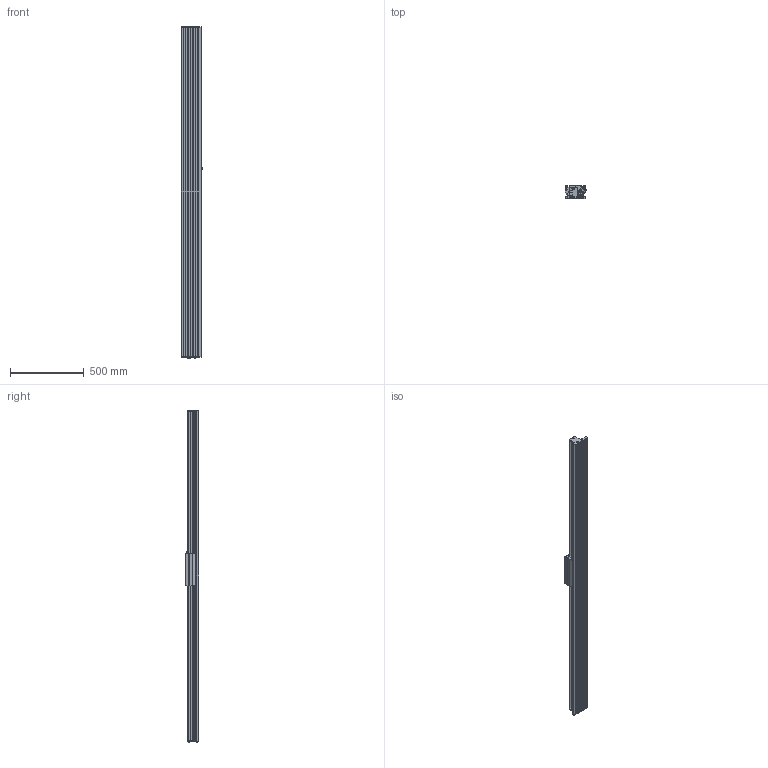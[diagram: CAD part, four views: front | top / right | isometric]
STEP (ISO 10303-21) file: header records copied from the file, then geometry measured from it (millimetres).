
FILE_DESCRIPTION (( 'STEP AP214' ), '1' );
FILE_NAME ('SINADRIVES Linear motor stage MLL20200XS-XX-1-0-ST-00-02244.STEP', '2015-07-06T09:15:27', ( 'Tecnico' ), ( '' ), 'SwSTEP 2.0', 'SolidWorks 2009', '' );
FILE_SCHEMA (( 'AUTOMOTIVE_DESIGN' ));
Length unit declared in the file: millimetre
Products named in the file (7): SINADRIVES PROFILE MLL2XXXX-2228; SINADRIVES CARRIAGE MLL20200XS-1; CARRIAGE MLL20200; Connector power+signal Y-tec 45; SINADRIVES ENDBLOCK MLL2; SINADRIVES ENDBLOCK MLL2-2; SINADRIVES Linear motor stage MLL20200XS-XX-1-0-ST-00-02244
Assembly tree (6 placements, depth 3):
  SINADRIVES Linear motor stage MLL20200XS-XX-1-0-ST-00-02244
    SINADRIVES CARRIAGE MLL20200XS-1
      Connector power+signal Y-tec 45
      CARRIAGE MLL20200
    SINADRIVES PROFILE MLL2XXXX-2228
    SINADRIVES ENDBLOCK MLL2
    SINADRIVES ENDBLOCK MLL2-2
Bounding box: 144.43 x 91 x 2252.8 mm (x, y, z)
Volume: 10165397.9 mm3; surface area: 1763489.1 mm2
Topology: 2 solids, 42 shells, 950 faces, 2640 edges, 1730 vertices
Faces by surface type: plane 445, cylinder 302, bspline 79, cone 70, torus 42, sphere 12
Entity records: 40587 total; most frequent: CARTESIAN_POINT 8656, ORIENTED_EDGE 5024, DIRECTION 4947, EDGE_CURVE 2622, AXIS2_PLACEMENT_3D 1781, VERTEX_POINT 1730, LINE 1385, VECTOR 1385
